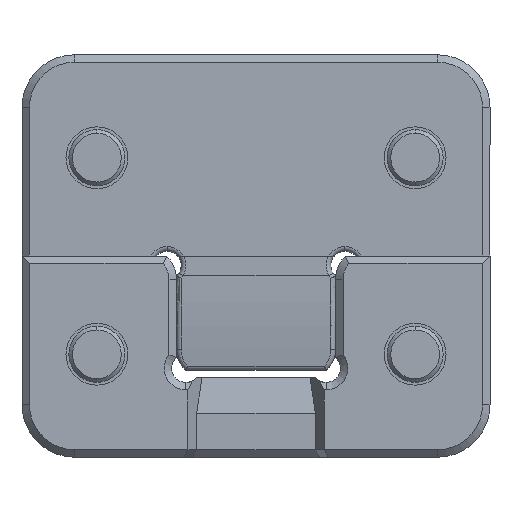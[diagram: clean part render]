
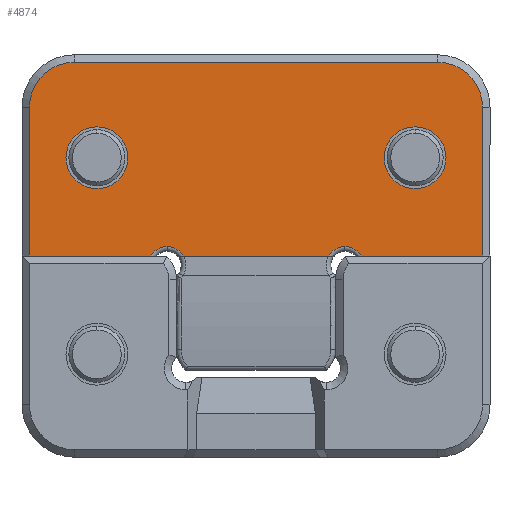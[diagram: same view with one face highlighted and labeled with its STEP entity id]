
A CAD part, front view. The second image highlights one B-rep face of the part: STEP entity #4874.
In plain terms, the highlighted planar face has unit normal (0, -1, 0).
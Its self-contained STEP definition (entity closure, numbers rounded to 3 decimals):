
#191 = ORIENTED_EDGE ( 'NONE', *, *, #5373, .T. ) ;
#219 = VERTEX_POINT ( 'NONE', #542 ) ;
#220 = VERTEX_POINT ( 'NONE', #543 ) ;
#227 = VERTEX_POINT ( 'NONE', #550 ) ;
#228 = VERTEX_POINT ( 'NONE', #551 ) ;
#241 = VERTEX_POINT ( 'NONE', #564 ) ;
#242 = VERTEX_POINT ( 'NONE', #565 ) ;
#246 = VERTEX_POINT ( 'NONE', #569 ) ;
#247 = VERTEX_POINT ( 'NONE', #570 ) ;
#262 = VERTEX_POINT ( 'NONE', #585 ) ;
#275 = VERTEX_POINT ( 'NONE', #598 ) ;
#276 = VERTEX_POINT ( 'NONE', #599 ) ;
#284 = VERTEX_POINT ( 'NONE', #607 ) ;
#285 = VERTEX_POINT ( 'NONE', #608 ) ;
#286 = VERTEX_POINT ( 'NONE', #609 ) ;
#287 = VERTEX_POINT ( 'NONE', #610 ) ;
#288 = VERTEX_POINT ( 'NONE', #611 ) ;
#542 = CARTESIAN_POINT ( 'NONE',  ( 17., -16., -14.3 ) ) ;
#543 = CARTESIAN_POINT ( 'NONE',  ( 17., -16., -7.7 ) ) ;
#550 = CARTESIAN_POINT ( 'NONE',  ( -17., -16., -14.3 ) ) ;
#551 = CARTESIAN_POINT ( 'NONE',  ( -17., -16., -7.7 ) ) ;
#564 = CARTESIAN_POINT ( 'NONE',  ( 9.506, -16., -20.49 ) ) ;
#565 = CARTESIAN_POINT ( 'NONE',  ( 7.757, -16., -21.5 ) ) ;
#569 = CARTESIAN_POINT ( 'NONE',  ( -9.506, -16., -20.49 ) ) ;
#570 = CARTESIAN_POINT ( 'NONE',  ( -11.256, -16., -21.5 ) ) ;
#585 = CARTESIAN_POINT ( 'NONE',  ( -24.2, -16., -21.5 ) ) ;
#598 = CARTESIAN_POINT ( 'NONE',  ( 24.2, -16., -21.5 ) ) ;
#599 = CARTESIAN_POINT ( 'NONE',  ( 11.256, -16., -21.5 ) ) ;
#607 = CARTESIAN_POINT ( 'NONE',  ( -19.4, -16., -0.8 ) ) ;
#608 = CARTESIAN_POINT ( 'NONE',  ( -24.2, -16., -5.6 ) ) ;
#609 = CARTESIAN_POINT ( 'NONE',  ( -7.757, -16., -21.5 ) ) ;
#610 = CARTESIAN_POINT ( 'NONE',  ( 24.2, -16., -5.6 ) ) ;
#611 = CARTESIAN_POINT ( 'NONE',  ( 19.4, -16., -0.8 ) ) ;
#808 = CARTESIAN_POINT ( 'NONE',  ( 9.506, -16., -22.51 ) ) ;
#809 = DIRECTION ( 'NONE',  ( 0., 1., 0. ) ) ;
#810 = DIRECTION ( 'NONE',  ( 0., 0., 1. ) ) ;
#811 = CARTESIAN_POINT ( 'NONE',  ( -9.506, -16., -22.51 ) ) ;
#818 = DIRECTION ( 'NONE',  ( 0., 1., 0. ) ) ;
#819 = DIRECTION ( 'NONE',  ( 0., 0., 1. ) ) ;
#1246 = CARTESIAN_POINT ( 'NONE',  ( -8.496, -16., -21.5 ) ) ;
#1247 = DIRECTION ( 'NONE',  ( -1., 0., 0. ) ) ;
#1304 = CARTESIAN_POINT ( 'NONE',  ( 8.496, -16., -21.5 ) ) ;
#1305 = DIRECTION ( 'NONE',  ( -1., 0., 0. ) ) ;
#1306 = CARTESIAN_POINT ( 'NONE',  ( -9.506, -16., -22.51 ) ) ;
#1308 = DIRECTION ( 'NONE',  ( 0., 1., 0. ) ) ;
#1309 = DIRECTION ( 'NONE',  ( 0., 0., 1. ) ) ;
#1330 = CARTESIAN_POINT ( 'NONE',  ( -24.2, -16., -21.5 ) ) ;
#1331 = DIRECTION ( 'NONE',  ( 0., 0., -1. ) ) ;
#2137 = PLANE ( 'NONE',  #7215 ) ;
#2138 = CARTESIAN_POINT ( 'NONE',  ( -25., -16., 0. ) ) ;
#2139 = DIRECTION ( 'NONE',  ( 0., 1., 0. ) ) ;
#2140 = DIRECTION ( 'NONE',  ( 0., 0., 1. ) ) ;
#2519 = CARTESIAN_POINT ( 'NONE',  ( 17., -16., -11. ) ) ;
#2522 = CARTESIAN_POINT ( 'NONE',  ( -19.4, -16., -5.6 ) ) ;
#2523 = CARTESIAN_POINT ( 'NONE',  ( 24.2, -16., -5.6 ) ) ;
#2524 = DIRECTION ( 'NONE',  ( 0., 0., 1. ) ) ;
#2526 = DIRECTION ( 'NONE',  ( 0., -1., 0. ) ) ;
#2527 = DIRECTION ( 'NONE',  ( 0., 0., 1. ) ) ;
#2528 = DIRECTION ( 'NONE',  ( 0., 1., 0. ) ) ;
#2529 = DIRECTION ( 'NONE',  ( 0., 0., 1. ) ) ;
#2530 = CARTESIAN_POINT ( 'NONE',  ( -17., -16., -11. ) ) ;
#2531 = DIRECTION ( 'NONE',  ( 0., 1., 0. ) ) ;
#2532 = DIRECTION ( 'NONE',  ( 0., 0., 1. ) ) ;
#2533 = CARTESIAN_POINT ( 'NONE',  ( 9.506, -16., -22.51 ) ) ;
#2534 = CARTESIAN_POINT ( 'NONE',  ( 19.4, -16., -5.6 ) ) ;
#2535 = DIRECTION ( 'NONE',  ( 0., 1., 0. ) ) ;
#2536 = DIRECTION ( 'NONE',  ( 0., 0., 1. ) ) ;
#2537 = CARTESIAN_POINT ( 'NONE',  ( -25., -16., -21.5 ) ) ;
#2538 = DIRECTION ( 'NONE',  ( 1., 0., 0. ) ) ;
#2542 = CARTESIAN_POINT ( 'NONE',  ( -19.4, -16., -0.8 ) ) ;
#2543 = DIRECTION ( 'NONE',  ( -1., 0., 0. ) ) ;
#2545 = DIRECTION ( 'NONE',  ( 0., -1., 0. ) ) ;
#2546 = DIRECTION ( 'NONE',  ( 0., 0., 1. ) ) ;
#3326 = CARTESIAN_POINT ( 'NONE',  ( 17., -16., -11. ) ) ;
#3336 = DIRECTION ( 'NONE',  ( 0., 1., 0. ) ) ;
#3337 = DIRECTION ( 'NONE',  ( 0., 0., 1. ) ) ;
#3361 = CARTESIAN_POINT ( 'NONE',  ( -17., -16., -11. ) ) ;
#3369 = DIRECTION ( 'NONE',  ( 0., 1., 0. ) ) ;
#3370 = DIRECTION ( 'NONE',  ( 0., 0., 1. ) ) ;
#3688 = EDGE_CURVE ( 'NONE', #242, #241, #6143, .T. ) ;
#3690 = EDGE_CURVE ( 'NONE', #247, #246, #6145, .T. ) ;
#3858 = EDGE_CURVE ( 'NONE', #247, #262, #6393, .T. ) ;
#3880 = EDGE_CURVE ( 'NONE', #275, #276, #6418, .T. ) ;
#3881 = EDGE_CURVE ( 'NONE', #246, #286, #6428, .T. ) ;
#3886 = EDGE_CURVE ( 'NONE', #285, #262, #6423, .T. ) ;
#4105 = ORIENTED_EDGE ( 'NONE', *, *, #5371, .T. ) ;
#4106 = ORIENTED_EDGE ( 'NONE', *, *, #3886, .T. ) ;
#4107 = ORIENTED_EDGE ( 'NONE', *, *, #3858, .F. ) ;
#4108 = ORIENTED_EDGE ( 'NONE', *, *, #3690, .T. ) ;
#4109 = ORIENTED_EDGE ( 'NONE', *, *, #3881, .T. ) ;
#4110 = ORIENTED_EDGE ( 'NONE', *, *, #5375, .T. ) ;
#4111 = ORIENTED_EDGE ( 'NONE', *, *, #3688, .T. ) ;
#4112 = ORIENTED_EDGE ( 'NONE', *, *, #5374, .T. ) ;
#4537 = EDGE_LOOP ( 'NONE', ( #7487, #7486 ) ) ;
#4587 = EDGE_LOOP ( 'NONE', ( #4105, #4106, #4107, #4108, #4109, #4110, #4111, #4112, #5993, #5994, #5995, #5996 ) ) ;
#4588 = EDGE_LOOP ( 'NONE', ( #191, #5368 ) ) ;
#4874 = ADVANCED_FACE ( 'NONE', ( #6845, #6840, #6849 ), #2137, .F. ) ;
#5368 = ORIENTED_EDGE ( 'NONE', *, *, #5666, .T. ) ;
#5370 = EDGE_CURVE ( 'NONE', #275, #287, #6935, .T. ) ;
#5371 = EDGE_CURVE ( 'NONE', #284, #285, #6939, .T. ) ;
#5372 = EDGE_CURVE ( 'NONE', #220, #219, #6940, .T. ) ;
#5373 = EDGE_CURVE ( 'NONE', #228, #227, #6941, .T. ) ;
#5374 = EDGE_CURVE ( 'NONE', #241, #276, #6943, .T. ) ;
#5375 = EDGE_CURVE ( 'NONE', #286, #242, #6927, .T. ) ;
#5377 = EDGE_CURVE ( 'NONE', #288, #284, #6937, .T. ) ;
#5378 = EDGE_CURVE ( 'NONE', #287, #288, #6947, .T. ) ;
#5653 = EDGE_CURVE ( 'NONE', #219, #220, #7719, .T. ) ;
#5666 = EDGE_CURVE ( 'NONE', #227, #228, #7736, .T. ) ;
#5757 = AXIS2_PLACEMENT_3D ( 'NONE', #808, #809, #810 ) ;
#5762 = AXIS2_PLACEMENT_3D ( 'NONE', #811, #818, #819 ) ;
#5836 = AXIS2_PLACEMENT_3D ( 'NONE', #1306, #1308, #1309 ) ;
#5993 = ORIENTED_EDGE ( 'NONE', *, *, #3880, .F. ) ;
#5994 = ORIENTED_EDGE ( 'NONE', *, *, #5370, .T. ) ;
#5995 = ORIENTED_EDGE ( 'NONE', *, *, #5378, .T. ) ;
#5996 = ORIENTED_EDGE ( 'NONE', *, *, #5377, .T. ) ;
#6143 = CIRCLE ( 'NONE', #5757, 2.02 ) ;
#6145 = CIRCLE ( 'NONE', #5762, 2.02 ) ;
#6393 = LINE ( 'NONE', #1246, #6394 ) ;
#6394 = VECTOR ( 'NONE', #1247, 1000. ) ;
#6406 = VECTOR ( 'NONE', #1305, 1000. ) ;
#6418 = LINE ( 'NONE', #1304, #6406 ) ;
#6420 = VECTOR ( 'NONE', #1331, 1000. ) ;
#6423 = LINE ( 'NONE', #1330, #6420 ) ;
#6428 = CIRCLE ( 'NONE', #5836, 2.02 ) ;
#6840 = FACE_BOUND ( 'NONE', #4588, .T. ) ;
#6845 = FACE_BOUND ( 'NONE', #4537, .T. ) ;
#6849 = FACE_OUTER_BOUND ( 'NONE', #4587, .T. ) ;
#6927 = LINE ( 'NONE', #2537, #6938 ) ;
#6935 = LINE ( 'NONE', #2523, #6936 ) ;
#6936 = VECTOR ( 'NONE', #2524, 1000. ) ;
#6937 = LINE ( 'NONE', #2542, #6942 ) ;
#6938 = VECTOR ( 'NONE', #2538, 1000. ) ;
#6939 = CIRCLE ( 'NONE', #7225, 4.8 ) ;
#6940 = CIRCLE ( 'NONE', #7251, 3.3 ) ;
#6941 = CIRCLE ( 'NONE', #7254, 3.3 ) ;
#6942 = VECTOR ( 'NONE', #2543, 1000. ) ;
#6943 = CIRCLE ( 'NONE', #7226, 2.02 ) ;
#6947 = CIRCLE ( 'NONE', #7257, 4.8 ) ;
#7215 = AXIS2_PLACEMENT_3D ( 'NONE', #2138, #2139, #2140 ) ;
#7225 = AXIS2_PLACEMENT_3D ( 'NONE', #2522, #2526, #2527 ) ;
#7226 = AXIS2_PLACEMENT_3D ( 'NONE', #2533, #2535, #2536 ) ;
#7251 = AXIS2_PLACEMENT_3D ( 'NONE', #2519, #2528, #2529 ) ;
#7254 = AXIS2_PLACEMENT_3D ( 'NONE', #2530, #2531, #2532 ) ;
#7257 = AXIS2_PLACEMENT_3D ( 'NONE', #2534, #2545, #2546 ) ;
#7406 = AXIS2_PLACEMENT_3D ( 'NONE', #3326, #3336, #3337 ) ;
#7413 = AXIS2_PLACEMENT_3D ( 'NONE', #3361, #3369, #3370 ) ;
#7486 = ORIENTED_EDGE ( 'NONE', *, *, #5653, .T. ) ;
#7487 = ORIENTED_EDGE ( 'NONE', *, *, #5372, .T. ) ;
#7719 = CIRCLE ( 'NONE', #7406, 3.3 ) ;
#7736 = CIRCLE ( 'NONE', #7413, 3.3 ) ;
